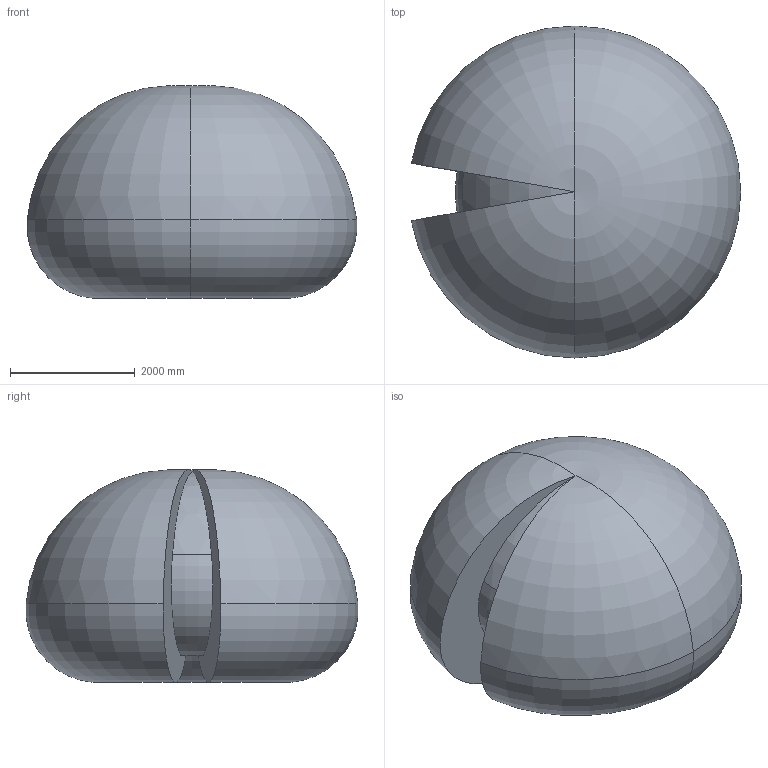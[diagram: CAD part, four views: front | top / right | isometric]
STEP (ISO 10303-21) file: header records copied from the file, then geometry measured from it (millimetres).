
FILE_DESCRIPTION (( 'STEP AP214' ), '1' );
FILE_NAME ('IRB6710_210kg-265_OC_00_Working-space.STEP', '2023-05-10T09:24:06', ( '' ), ( '' ), 'SwSTEP 2.0', 'SolidWorks 2020', '' );
FILE_SCHEMA (( 'AUTOMOTIVE_DESIGN' ));
Length unit declared in the file: millimetre
Products named in the file (1): IRB6710_210kg-265_OC_00_Working-space
Bounding box: 5271.55 x 5311.9 x 3396.39 mm (x, y, z)
Volume: 49784570430 mm3; surface area: 87544255.4 mm2
Topology: 1 solids, 1 shells, 18 faces, 44 edges, 20 vertices
Faces by surface type: torus 16, plane 2
Entity records: 514 total; most frequent: DIRECTION 110, CARTESIAN_POINT 75, ORIENTED_EDGE 72, AXIS2_PLACEMENT_3D 55, CIRCLE 36, EDGE_CURVE 36, VERTEX_POINT 20, ADVANCED_FACE 18
